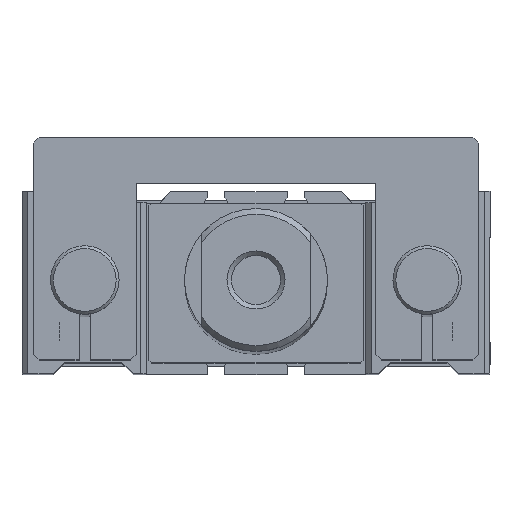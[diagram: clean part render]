
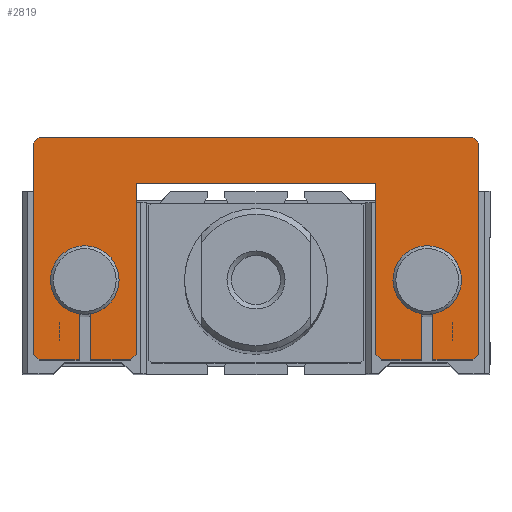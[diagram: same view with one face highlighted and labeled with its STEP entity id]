
A CAD part, top view. The second image highlights one B-rep face of the part: STEP entity #2819.
In plain terms, the highlighted planar face has unit normal (0, 0, 1).
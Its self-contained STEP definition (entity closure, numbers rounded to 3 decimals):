
#291=CARTESIAN_POINT('',(-29.0,-5.916,329.0));
#292=VERTEX_POINT('',#291);
#293=CARTESIAN_POINT('',(-31.0,-5.916,329.0));
#294=VERTEX_POINT('',#293);
#295=CARTESIAN_POINT('',(-30.0,0.0,329.0));
#296=DIRECTION('',(0.0,0.0,1.0));
#297=DIRECTION('',(0.0,-1.0,0.0));
#298=AXIS2_PLACEMENT_3D('',#295,#296,#297);
#299=CIRCLE('',#298,6.);
#300=EDGE_CURVE('',#292,#294,#299,.T.);
#378=CARTESIAN_POINT('',(31.,-5.916,329.0));
#379=VERTEX_POINT('',#378);
#380=CARTESIAN_POINT('',(29.,-5.916,329.0));
#381=VERTEX_POINT('',#380);
#382=CARTESIAN_POINT('',(30.0,0.0,329.0));
#383=DIRECTION('',(0.0,0.0,1.0));
#384=DIRECTION('',(0.0,-1.0,0.0));
#385=AXIS2_PLACEMENT_3D('',#382,#383,#384);
#386=CIRCLE('',#385,6.);
#387=EDGE_CURVE('',#379,#381,#386,.T.);
#2365=CARTESIAN_POINT('',(-39.0,24.,329.0));
#2366=VERTEX_POINT('',#2365);
#2367=CARTESIAN_POINT('',(-38.0,25.,329.0));
#2368=VERTEX_POINT('',#2367);
#2369=CARTESIAN_POINT('',(-39.0,24.,329.0));
#2370=DIRECTION('',(0.707,0.707,0.0));
#2371=VECTOR('',#2370,1.414);
#2372=LINE('',#2369,#2371);
#2373=EDGE_CURVE('',#2366,#2368,#2372,.T.);
#2429=CARTESIAN_POINT('',(-39.0,-13.,329.0));
#2430=VERTEX_POINT('',#2429);
#2437=CARTESIAN_POINT('',(-39.0,24.,329.0));
#2438=DIRECTION('',(0.0,-1.0,0.0));
#2439=VECTOR('',#2438,37.0);
#2440=LINE('',#2437,#2439);
#2441=EDGE_CURVE('',#2366,#2430,#2440,.T.);
#2622=CARTESIAN_POINT('',(38.0,25.,329.0));
#2623=VERTEX_POINT('',#2622);
#2630=CARTESIAN_POINT('',(39.0,24.,329.0));
#2631=VERTEX_POINT('',#2630);
#2632=CARTESIAN_POINT('',(38.0,25.,329.0));
#2633=DIRECTION('',(0.707,-0.707,0.0));
#2634=VECTOR('',#2633,1.414);
#2635=LINE('',#2632,#2634);
#2636=EDGE_CURVE('',#2623,#2631,#2635,.T.);
#2653=CARTESIAN_POINT('',(39.0,-13.,329.0));
#2654=VERTEX_POINT('',#2653);
#2655=CARTESIAN_POINT('',(39.0,-13.,329.0));
#2656=DIRECTION('',(0.0,1.0,0.0));
#2657=VECTOR('',#2656,37.0);
#2658=LINE('',#2655,#2657);
#2659=EDGE_CURVE('',#2654,#2631,#2658,.T.);
#2686=CARTESIAN_POINT('',(0.0,-14.,329.0));
#2687=DIRECTION('',(0.0,0.0,1.0));
#2688=DIRECTION('',(1.0,0.0,0.0));
#2689=AXIS2_PLACEMENT_3D('',#2686,#2687,#2688);
#2690=PLANE('',#2689);
#2691=ORIENTED_EDGE('',*,*,#2373,.F.);
#2692=ORIENTED_EDGE('',*,*,#2441,.T.);
#2693=CARTESIAN_POINT('',(-38.0,-14.,329.0));
#2694=VERTEX_POINT('',#2693);
#2695=CARTESIAN_POINT('',(-38.0,-14.,329.0));
#2696=DIRECTION('',(-0.707,0.707,0.0));
#2697=VECTOR('',#2696,1.414);
#2698=LINE('',#2695,#2697);
#2699=EDGE_CURVE('',#2694,#2430,#2698,.T.);
#2700=ORIENTED_EDGE('',*,*,#2699,.F.);
#2701=CARTESIAN_POINT('',(-31.0,-14.,329.0));
#2702=VERTEX_POINT('',#2701);
#2703=CARTESIAN_POINT('',(-38.0,-14.,329.0));
#2704=DIRECTION('',(1.0,0.0,0.0));
#2705=VECTOR('',#2704,7.0);
#2706=LINE('',#2703,#2705);
#2707=EDGE_CURVE('',#2694,#2702,#2706,.T.);
#2708=ORIENTED_EDGE('',*,*,#2707,.T.);
#2709=CARTESIAN_POINT('',(-31.0,-14.,329.0));
#2710=DIRECTION('',(0.0,1.0,0.0));
#2711=VECTOR('',#2710,8.084);
#2712=LINE('',#2709,#2711);
#2713=EDGE_CURVE('',#2702,#294,#2712,.T.);
#2714=ORIENTED_EDGE('',*,*,#2713,.T.);
#2715=ORIENTED_EDGE('',*,*,#300,.F.);
#2716=CARTESIAN_POINT('',(-29.0,-14.,329.0));
#2717=VERTEX_POINT('',#2716);
#2718=CARTESIAN_POINT('',(-29.0,-5.916,329.0));
#2719=DIRECTION('',(0.0,-1.0,0.0));
#2720=VECTOR('',#2719,8.084);
#2721=LINE('',#2718,#2720);
#2722=EDGE_CURVE('',#292,#2717,#2721,.T.);
#2723=ORIENTED_EDGE('',*,*,#2722,.T.);
#2724=CARTESIAN_POINT('',(-22.0,-14.,329.0));
#2725=VERTEX_POINT('',#2724);
#2726=CARTESIAN_POINT('',(-29.0,-14.,329.0));
#2727=DIRECTION('',(1.0,0.0,0.0));
#2728=VECTOR('',#2727,7.0);
#2729=LINE('',#2726,#2728);
#2730=EDGE_CURVE('',#2717,#2725,#2729,.T.);
#2731=ORIENTED_EDGE('',*,*,#2730,.T.);
#2732=CARTESIAN_POINT('',(-21.0,-13.,329.0));
#2733=VERTEX_POINT('',#2732);
#2734=CARTESIAN_POINT('',(-21.0,-13.,329.0));
#2735=DIRECTION('',(-0.707,-0.707,0.0));
#2736=VECTOR('',#2735,1.414);
#2737=LINE('',#2734,#2736);
#2738=EDGE_CURVE('',#2733,#2725,#2737,.T.);
#2739=ORIENTED_EDGE('',*,*,#2738,.F.);
#2740=CARTESIAN_POINT('',(-21.0,17.,329.0));
#2741=VERTEX_POINT('',#2740);
#2742=CARTESIAN_POINT('',(-21.0,-13.,329.0));
#2743=DIRECTION('',(0.0,1.0,0.0));
#2744=VECTOR('',#2743,30.);
#2745=LINE('',#2742,#2744);
#2746=EDGE_CURVE('',#2733,#2741,#2745,.T.);
#2747=ORIENTED_EDGE('',*,*,#2746,.T.);
#2748=CARTESIAN_POINT('',(21.0,17.,329.0));
#2749=VERTEX_POINT('',#2748);
#2750=CARTESIAN_POINT('',(-21.0,17.,329.0));
#2751=DIRECTION('',(1.0,0.0,0.0));
#2752=VECTOR('',#2751,42.0);
#2753=LINE('',#2750,#2752);
#2754=EDGE_CURVE('',#2741,#2749,#2753,.T.);
#2755=ORIENTED_EDGE('',*,*,#2754,.T.);
#2756=CARTESIAN_POINT('',(21.0,-13.,329.0));
#2757=VERTEX_POINT('',#2756);
#2758=CARTESIAN_POINT('',(21.0,17.,329.0));
#2759=DIRECTION('',(0.0,-1.0,0.0));
#2760=VECTOR('',#2759,30.);
#2761=LINE('',#2758,#2760);
#2762=EDGE_CURVE('',#2749,#2757,#2761,.T.);
#2763=ORIENTED_EDGE('',*,*,#2762,.T.);
#2764=CARTESIAN_POINT('',(22.0,-14.,329.0));
#2765=VERTEX_POINT('',#2764);
#2766=CARTESIAN_POINT('',(22.0,-14.,329.0));
#2767=DIRECTION('',(-0.707,0.707,0.0));
#2768=VECTOR('',#2767,1.414);
#2769=LINE('',#2766,#2768);
#2770=EDGE_CURVE('',#2765,#2757,#2769,.T.);
#2771=ORIENTED_EDGE('',*,*,#2770,.F.);
#2772=CARTESIAN_POINT('',(29.,-14.,329.0));
#2773=VERTEX_POINT('',#2772);
#2774=CARTESIAN_POINT('',(22.0,-14.,329.0));
#2775=DIRECTION('',(1.0,0.0,0.0));
#2776=VECTOR('',#2775,7.);
#2777=LINE('',#2774,#2776);
#2778=EDGE_CURVE('',#2765,#2773,#2777,.T.);
#2779=ORIENTED_EDGE('',*,*,#2778,.T.);
#2780=CARTESIAN_POINT('',(29.,-14.,329.0));
#2781=DIRECTION('',(0.0,1.0,0.0));
#2782=VECTOR('',#2781,8.084);
#2783=LINE('',#2780,#2782);
#2784=EDGE_CURVE('',#2773,#381,#2783,.T.);
#2785=ORIENTED_EDGE('',*,*,#2784,.T.);
#2786=ORIENTED_EDGE('',*,*,#387,.F.);
#2787=CARTESIAN_POINT('',(31.,-14.,329.0));
#2788=VERTEX_POINT('',#2787);
#2789=CARTESIAN_POINT('',(31.,-5.916,329.0));
#2790=DIRECTION('',(0.0,-1.0,0.0));
#2791=VECTOR('',#2790,8.084);
#2792=LINE('',#2789,#2791);
#2793=EDGE_CURVE('',#379,#2788,#2792,.T.);
#2794=ORIENTED_EDGE('',*,*,#2793,.T.);
#2795=CARTESIAN_POINT('',(38.0,-14.,329.0));
#2796=VERTEX_POINT('',#2795);
#2797=CARTESIAN_POINT('',(31.,-14.,329.0));
#2798=DIRECTION('',(1.0,0.0,0.0));
#2799=VECTOR('',#2798,7.);
#2800=LINE('',#2797,#2799);
#2801=EDGE_CURVE('',#2788,#2796,#2800,.T.);
#2802=ORIENTED_EDGE('',*,*,#2801,.T.);
#2803=CARTESIAN_POINT('',(39.0,-13.,329.0));
#2804=DIRECTION('',(-0.707,-0.707,0.0));
#2805=VECTOR('',#2804,1.414);
#2806=LINE('',#2803,#2805);
#2807=EDGE_CURVE('',#2654,#2796,#2806,.T.);
#2808=ORIENTED_EDGE('',*,*,#2807,.F.);
#2809=ORIENTED_EDGE('',*,*,#2659,.T.);
#2810=ORIENTED_EDGE('',*,*,#2636,.F.);
#2811=CARTESIAN_POINT('',(-38.0,25.,329.0));
#2812=DIRECTION('',(1.0,0.0,0.0));
#2813=VECTOR('',#2812,76.0);
#2814=LINE('',#2811,#2813);
#2815=EDGE_CURVE('',#2368,#2623,#2814,.T.);
#2816=ORIENTED_EDGE('',*,*,#2815,.F.);
#2817=EDGE_LOOP('',(#2691,#2692,#2700,#2708,#2714,#2715,#2723,#2731,#2739,#2747,#2755,#2763,#2771,#2779,#2785,#2786,#2794,#2802,#2808,#2809,#2810,#2816));
#2818=FACE_OUTER_BOUND('',#2817,.T.);
#2819=ADVANCED_FACE('',(#2818),#2690,.T.);
